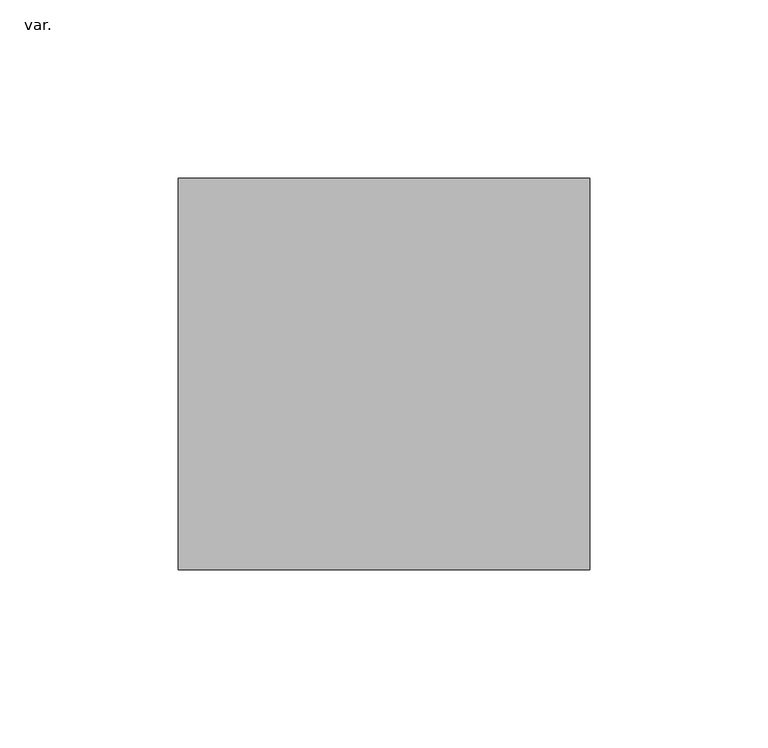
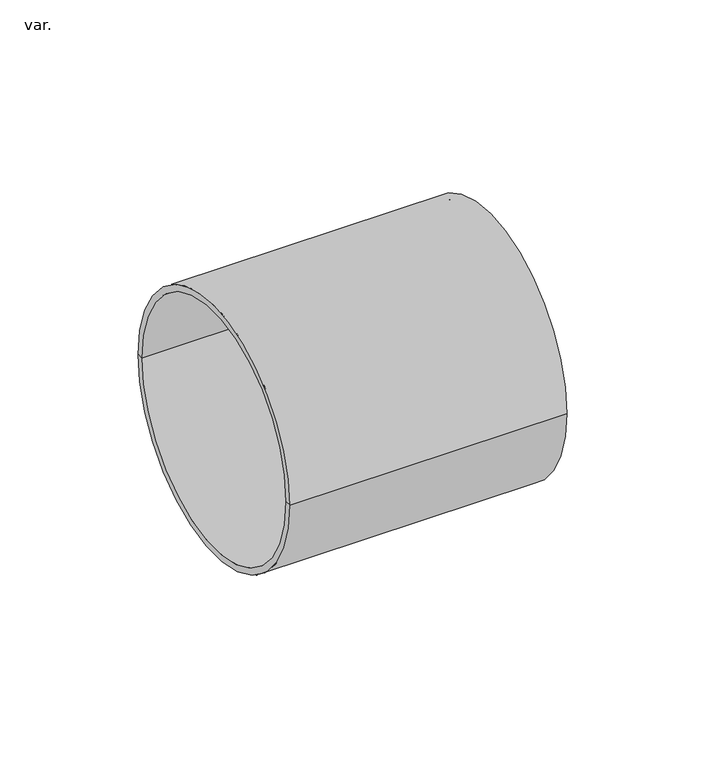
"""IFC4 building model written with IfcOpenShell, lengths in millimetres: pipe fitting geometry, AmancoWavin_Unionesdetubería_SilentiumZNoUsarExtension : var.."""

from ifc_helpers import new_model, si_unit, frame, origin, place, context, project, spatial, polyline, circle_curve, source, transform, mapped, element, save
from ifc_brep_helpers import plane_surface, cylinder_surface, revolved_surface, advanced_brep


def var_a03eb87c(model_context):
    return source(origin(), model_context, "Body", "AdvancedBrep", [
        advanced_brep(
        [(-69.2453589, -55.0, 0.0), (-69.2453589, 55.0, 0.0), (46.4546411, 55.0, 0.0), (46.4546411, -55.0, 0.0), (-69.2453589, -52.3, 0.0), (-69.2453589, 52.3, 0.0), (46.4546411, -52.3, 0.0), (46.4546411, 52.3, 0.0)],
        [
            (0, 1, circle_curve(frame((-69.2453589, 0.0, 0.0), z_axis=(1.0, 0.0, 0.0), x_axis=(0.0, 1.0, 0.0)), 55.0)),
            (1, 2),
            (2, 3, circle_curve(frame((46.4546411, 0.0, 0.0), z_axis=(-1.0, 0.0, 0.0), x_axis=(0.0, 1.0, 0.0)), 55.0)),
            (3, 0),
            (1, 0, circle_curve(frame((-69.2453589, 0.0, 0.0), z_axis=(1.0, 0.0, 0.0), x_axis=(0.0, 1.0, 0.0)), 55.0)),
            (3, 2, circle_curve(frame((46.4546411, 0.0, 0.0), z_axis=(-1.0, 0.0, 0.0), x_axis=(0.0, 1.0, 0.0)), 55.0)),
            (4, 5, circle_curve(frame((-69.2453589, 0.0, 0.0), z_axis=(1.0, 0.0, 0.0), x_axis=(0.0, 1.0, 0.0)), 52.3)),
            (5, 1),
            (0, 4),
            (5, 4, circle_curve(frame((-69.2453589, 0.0, 0.0), z_axis=(1.0, 0.0, 0.0), x_axis=(0.0, 1.0, 0.0)), 52.3)),
            (6, 7, circle_curve(frame((46.4546411, 0.0, 0.0), z_axis=(1.0, 0.0, 0.0), x_axis=(0.0, 1.0, 0.0)), 52.3)),
            (7, 5),
            (4, 6),
            (7, 6, circle_curve(frame((46.4546411, 0.0, 0.0), z_axis=(1.0, 0.0, 0.0), x_axis=(0.0, 1.0, 0.0)), 52.3)),
            (2, 7),
            (6, 3),
        ],
        [
            cylinder_surface(frame((-2070.4026442, 0.0, 0.0), z_axis=(-1.0, 0.0, 0.0), x_axis=(0.0, 1.0, 0.0)), 55.0),
            plane_surface(frame((-69.2453589, 0.0, 0.0), z_axis=(-1.0, 0.0, 0.0), x_axis=(0.0, 1.0, 0.0))),
            revolved_surface(polyline([(-69.24535889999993, 52.3, 0.0), (46.45464110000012, 52.3, 0.0)]), (-2070.4026442, 0.0, 0.0), (-1.0, 0.0, 0.0)),
            plane_surface(frame((46.4546411, 0.0, 0.0), z_axis=(1.0, 0.0, 0.0), x_axis=(0.0, 1.0, 0.0))),
        ],
        [
            (0, [[1, 2, 3, 4]]),
            (0, [[5, -4, 6, -2]]),
            (1, [[7, 8, -1, 9]]),
            (1, [[10, -9, -5, -8]]),
            (2, [[11, 12, -7, 13]]),
            (2, [[14, -13, -10, -12]]),
            (3, [[-3, 15, -11, 16]]),
            (3, [[-6, -16, -14, -15]]),
        ],
    ),
    ])


if __name__ == "__main__":
    model = new_model("IFC4")
    model_context = context("Model", 3, world=origin())
    ifc_project = project(units=[si_unit("LENGTHUNIT", "METRE", prefix="MILLI")], contexts=[model_context])
    site = spatial("IfcSite", under=ifc_project)
    building = spatial("IfcBuilding", under=site)
    placement = place(None, origin())
    var_shape = var_a03eb87c(model_context)
    element("IfcPipeFitting", 1, ObjectType="AmancoWavin_Unionesdetubería_SilentiumZNoUsarExtension : var.", at=placement, inside=building, context=model_context, shape_type="MappedRepresentation", body=[
        mapped(var_shape, transform((0.0, 0.0, 0.0), x_axis=(1.0, 0.0, 0.0), y_axis=(0.0, 1.0, 0.0), z_axis=(0.0, 0.0, 1.0))),
    ])
    save(model, "model.ifc")
